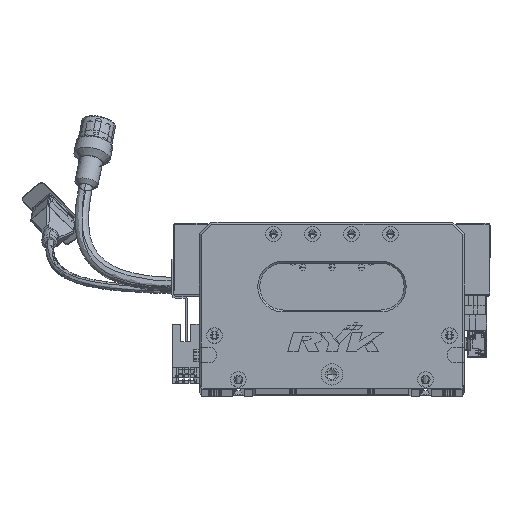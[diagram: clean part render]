
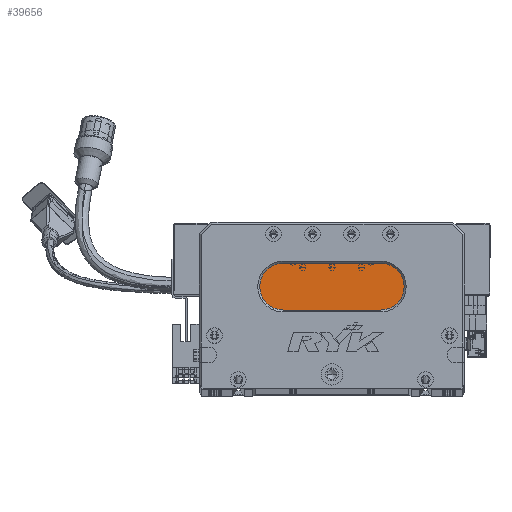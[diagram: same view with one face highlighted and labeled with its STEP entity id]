
A CAD part, top view. The second image highlights one B-rep face of the part: STEP entity #39656.
In plain terms, the highlighted planar face has unit normal (0, 0, 1) as drawn and (0, 0, -1) by its records, which use the part's own axes.
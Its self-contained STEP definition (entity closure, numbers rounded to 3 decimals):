
#786 = EDGE_CURVE ( 'NONE', #21041, #96583, #112245, .T. ) ;
#1057 = DIRECTION ( 'NONE',  ( 0., 0., -1. ) ) ;
#1163 = VERTEX_POINT ( 'NONE', #82864 ) ;
#3287 = DIRECTION ( 'NONE',  ( 0., 0., -1. ) ) ;
#3470 = CIRCLE ( 'NONE', #22557, 12. ) ;
#3948 = CARTESIAN_POINT ( 'NONE',  ( 43., 40., 13. ) ) ;
#6470 = CARTESIAN_POINT ( 'NONE',  ( 93., 40., 13. ) ) ;
#9064 = ORIENTED_EDGE ( 'NONE', *, *, #117107, .T. ) ;
#9465 = CIRCLE ( 'NONE', #36845, 12. ) ;
#9794 = VECTOR ( 'NONE', #15748, 1000. ) ;
#9994 = ORIENTED_EDGE ( 'NONE', *, *, #97828, .T. ) ;
#12883 = CARTESIAN_POINT ( 'NONE',  ( 93., 52., 13. ) ) ;
#15748 = DIRECTION ( 'NONE',  ( 1., 0., 0. ) ) ;
#20898 = DIRECTION ( 'NONE',  ( -1., 0., 0. ) ) ;
#21041 = VERTEX_POINT ( 'NONE', #6470 ) ;
#22557 = AXIS2_PLACEMENT_3D ( 'NONE', #12883, #76019, #20898 ) ;
#36845 = AXIS2_PLACEMENT_3D ( 'NONE', #84917, #3287, #104233 ) ;
#39656 = ADVANCED_FACE ( 'NONE', ( #65830 ), #67260, .T. ) ;
#43135 = VECTOR ( 'NONE', #57240, 1000. ) ;
#46727 = AXIS2_PLACEMENT_3D ( 'NONE', #91946, #1057, #83124 ) ;
#47137 = CARTESIAN_POINT ( 'NONE',  ( 93., 52., 13. ) ) ;
#57202 = DIRECTION ( 'NONE',  ( 0., 0., -1. ) ) ;
#57240 = DIRECTION ( 'NONE',  ( -1., 0., 0. ) ) ;
#57447 = VERTEX_POINT ( 'NONE', #66823 ) ;
#61904 = AXIS2_PLACEMENT_3D ( 'NONE', #47137, #57202, #66867 ) ;
#65830 = FACE_OUTER_BOUND ( 'NONE', #85645, .T. ) ;
#66823 = CARTESIAN_POINT ( 'NONE',  ( 93., 64., 13. ) ) ;
#66867 = DIRECTION ( 'NONE',  ( -1., 0., 0. ) ) ;
#67260 = PLANE ( 'NONE',  #61904 ) ;
#70866 = CIRCLE ( 'NONE', #46727, 12. ) ;
#76019 = DIRECTION ( 'NONE',  ( 0., 0., -1. ) ) ;
#79719 = CARTESIAN_POINT ( 'NONE',  ( 93., 64., 13. ) ) ;
#82864 = CARTESIAN_POINT ( 'NONE',  ( 31., 52., 13. ) ) ;
#83124 = DIRECTION ( 'NONE',  ( -1., 0., 0. ) ) ;
#83575 = CARTESIAN_POINT ( 'NONE',  ( 43., 64., 13. ) ) ;
#83595 = EDGE_CURVE ( 'NONE', #57447, #21041, #3470, .T. ) ;
#84635 = ORIENTED_EDGE ( 'NONE', *, *, #99490, .T. ) ;
#84917 = CARTESIAN_POINT ( 'NONE',  ( 43., 52., 13. ) ) ;
#85645 = EDGE_LOOP ( 'NONE', ( #108526, #113713, #84635, #9064, #9994 ) ) ;
#91946 = CARTESIAN_POINT ( 'NONE',  ( 43., 52., 13. ) ) ;
#96583 = VERTEX_POINT ( 'NONE', #3948 ) ;
#97828 = EDGE_CURVE ( 'NONE', #105985, #57447, #112025, .T. ) ;
#99490 = EDGE_CURVE ( 'NONE', #96583, #1163, #9465, .T. ) ;
#104233 = DIRECTION ( 'NONE',  ( -1., 0., 0. ) ) ;
#105985 = VERTEX_POINT ( 'NONE', #83575 ) ;
#108526 = ORIENTED_EDGE ( 'NONE', *, *, #83595, .T. ) ;
#112025 = LINE ( 'NONE', #79719, #9794 ) ;
#112245 = LINE ( 'NONE', #113117, #43135 ) ;
#113117 = CARTESIAN_POINT ( 'NONE',  ( 93., 40., 13. ) ) ;
#113713 = ORIENTED_EDGE ( 'NONE', *, *, #786, .T. ) ;
#117107 = EDGE_CURVE ( 'NONE', #1163, #105985, #70866, .T. ) ;
